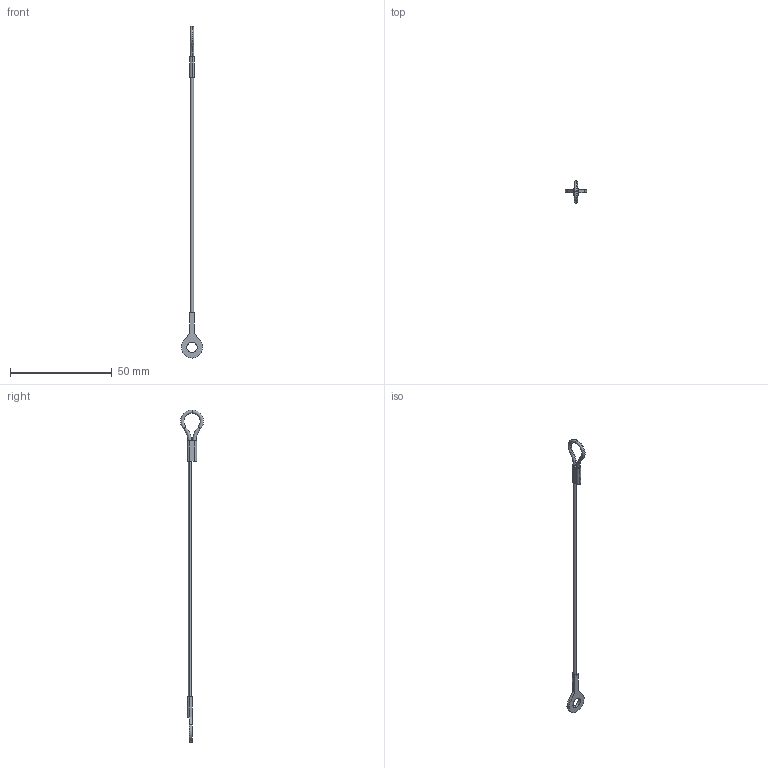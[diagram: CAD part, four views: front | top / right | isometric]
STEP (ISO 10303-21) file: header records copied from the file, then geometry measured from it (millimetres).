
FILE_DESCRIPTION (( 'STEP AP203' ), '1' );
FILE_NAME ('LA1075.I06-152N1.step', '2026-03-23T16:43:48', ( '' ), ( '' ), 'SwSTEP 2.0', 'SolidWorks 2019', '' );
FILE_SCHEMA (( 'CONFIG_CONTROL_DESIGN' ));
Length unit declared in the file: millimetre
Products named in the file (1): LA1075.I06-152N1
Bounding box: 10.41 x 11.16 x 163.2 mm (x, y, z)
Volume: 563.3 mm3; surface area: 1204.1 mm2
Topology: 1 solids, 1 shells, 32 faces, 74 edges, 46 vertices
Faces by surface type: plane 14, cylinder 10, torus 8
Entity records: 1003 total; most frequent: DIRECTION 180, CARTESIAN_POINT 153, ORIENTED_EDGE 148, EDGE_CURVE 74, AXIS2_PLACEMENT_3D 73, VERTEX_POINT 46, CIRCLE 40, EDGE_LOOP 38
